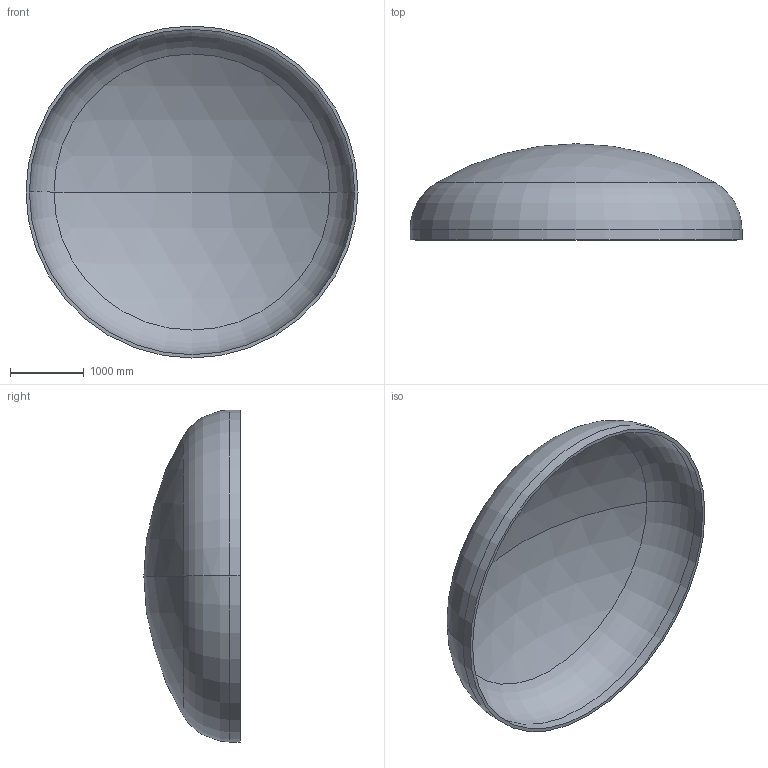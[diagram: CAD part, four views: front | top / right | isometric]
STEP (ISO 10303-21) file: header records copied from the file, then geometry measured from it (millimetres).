
FILE_DESCRIPTION (( 'STEP AP203' ), '1' );
FILE_NAME ('DIN 28013 Korbbogenform_-_Boden DIN 28013 - 4500 x 140 - I - s=45.step', '2016-07-01T23:28:05', ( '' ), ( '' ), 'SwSTEP 2.0', 'SolidWorks 2013', '' );
FILE_SCHEMA (( 'CONFIG_CONTROL_DESIGN' ));
Length unit declared in the file: millimetre
Products named in the file (1): DIN 28013 Korbbogenform_-_Boden DIN 28013 - 4500 x 140 - I - s=45
Bounding box: 4500 x 1303.28 x 4500 mm (x, y, z)
Volume: 1066930963 mm3; surface area: 48053188.4 mm2
Topology: 1 solids, 1 shells, 13 faces, 24 edges, 14 vertices
Faces by surface type: torus 4, cylinder 4, sphere 4, plane 1
Entity records: 407 total; most frequent: DIRECTION 72, CARTESIAN_POINT 52, ORIENTED_EDGE 48, AXIS2_PLACEMENT_3D 34, EDGE_CURVE 24, CIRCLE 20, VERTEX_POINT 14, EDGE_LOOP 14
